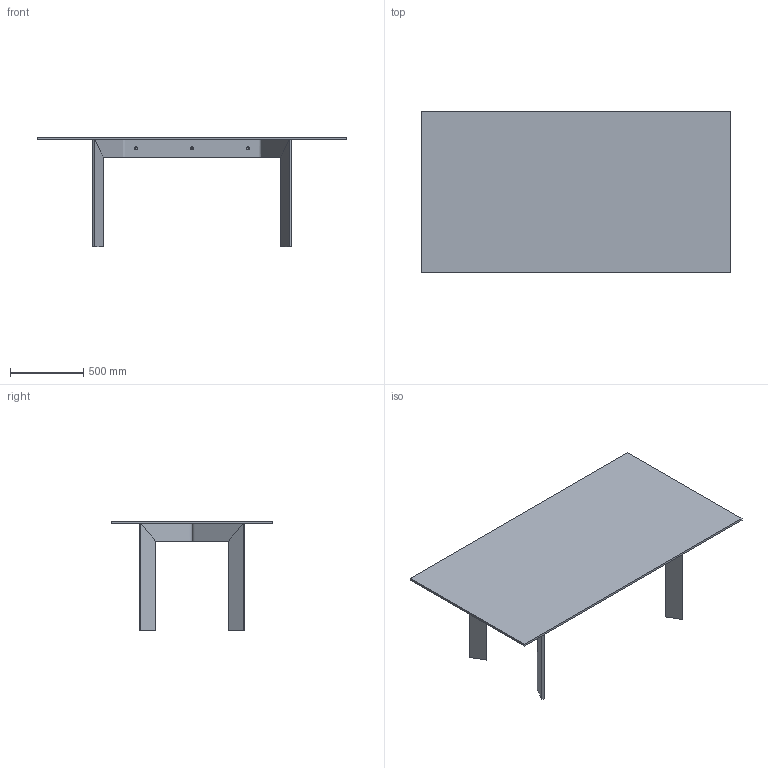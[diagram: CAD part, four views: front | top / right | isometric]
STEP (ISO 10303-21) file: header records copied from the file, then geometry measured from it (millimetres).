
FILE_DESCRIPTION(/* description */ (''),/* implementation_level */ '2;1');
FILE_NAME(/* name */ 'CR21 - Cross 210x110',/* time_stamp */ '2012-06-19T16:31:35+02:00',/* author */ (''),/* organization */ (''),/* preprocessor_version */ 'ST-DEVELOPER v10',/* originating_system */ '',/* authorisation */ '');
FILE_SCHEMA (('CONFIG_CONTROL_DESIGN'));
Length unit declared in the file: millimetre
Products named in the file (1): 1
Bounding box: 2100 x 1100 x 745 mm (x, y, z)
Volume: 50678969.7 mm3; surface area: 6474757 mm2
Topology: 19 solids, 19 shells, 236 faces, 474 edges, 288 vertices
Faces by surface type: bspline 162, plane 74
Entity records: 6742 total; most frequent: CARTESIAN_POINT 3764, ORIENTED_EDGE 948, EDGE_CURVE 474, VERTEX_POINT 288, EDGE_LOOP 272, ADVANCED_FACE 236, FACE_OUTER_BOUND 236, B_SPLINE_CURVE_WITH_KNOTS 138
